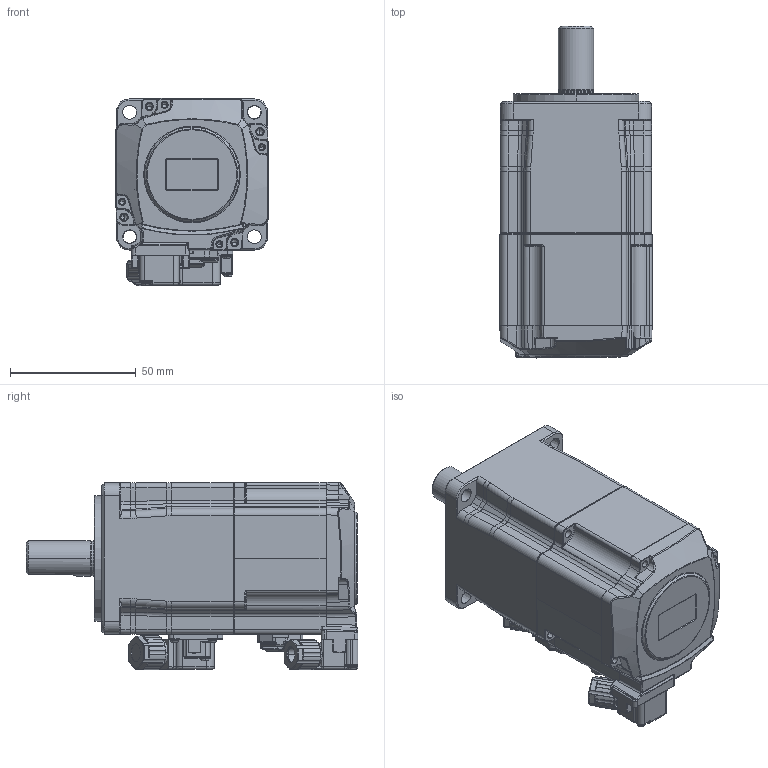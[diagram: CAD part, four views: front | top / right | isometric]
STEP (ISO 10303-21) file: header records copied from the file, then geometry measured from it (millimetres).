
FILE_DESCRIPTION((''),'2;1');
FILE_NAME('ASM0004_ASM','2024-01-17T19:02:13',('TED.FANG'),(''),'CREO PARAMETRIC BY PTC INC, 2020454','CREO PARAMETRIC BY PTC INC, 2020454','');
FILE_SCHEMA(('CONFIG_CONTROL_DESIGN'));
Products named in the file (4): ECM-B3H-C20602SB1_202_SW0001; PLUG-MCSCREWTYPE7S-0506_2; PLUG-MTSCREWTYPE7A6S_T0_2; ASM0004_ASM
Assembly tree (3 placements, depth 2):
  ASM0004_ASM
    ECM-B3H-C20602SB1_202_SW0001
    PLUG-MCSCREWTYPE7S-0506_2
    PLUG-MTSCREWTYPE7A6S_T0_2
Bounding box: 60.6 x 131.8 x 74.4 mm (x, y, z)
Volume: 337927.6 mm3; surface area: 41039.2 mm2
Topology: 3 solids, 3 shells, 2964 faces, 7701 edges, 4818 vertices
Faces by surface type: plane 1057, cylinder 948, torus 320, bspline 246, extrusion 222, cone 139, sphere 32
Entity records: 116064 total; most frequent: CARTESIAN_POINT 46529, ORIENTED_EDGE 15310, DIRECTION 13242, EDGE_CURVE 7655, VERTEX_POINT 4818, AXIS2_PLACEMENT_3D 4640, VECTOR 3962, LINE 3740
